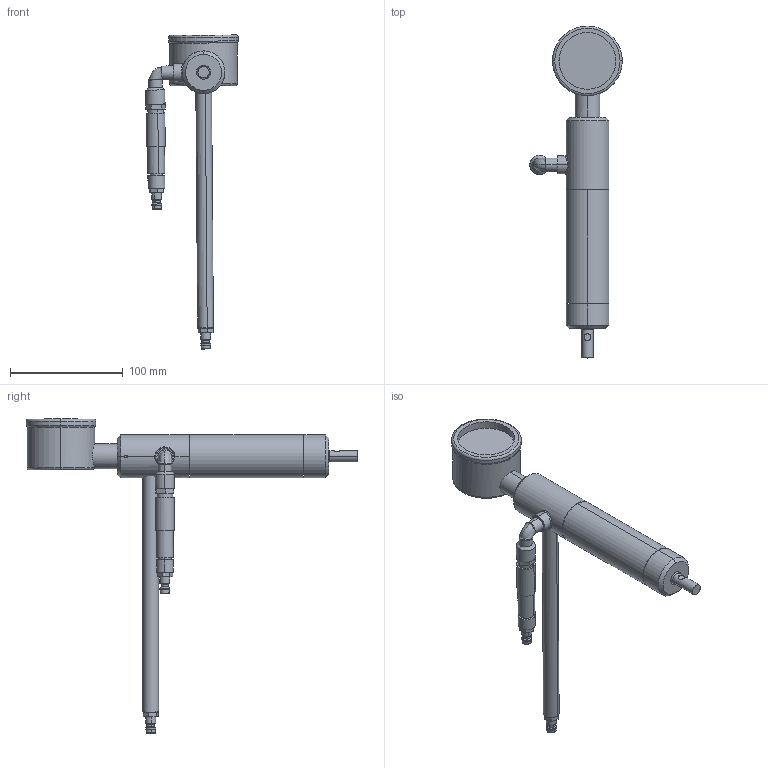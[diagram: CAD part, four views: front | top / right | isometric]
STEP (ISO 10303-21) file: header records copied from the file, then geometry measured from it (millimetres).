
FILE_DESCRIPTION (( 'STEP AP214' ), '1' );
FILE_NAME ('PLR28TGA.STEP', '2019-03-12T09:06:54', ( '' ), ( '' ), 'SwSTEP 2.0', 'SolidWorks 2018', '' );
FILE_SCHEMA (( 'AUTOMOTIVE_DESIGN' ));
Length unit declared in the file: millimetre
Products named in the file (14): Verschluss PLR 11; Halterohr GA; Rändelschraube GA; Schnellkupplung; Ventil; Rändelschraube; Winkel; Kopie von Tacho^PLR28TGA; Kopie von Distanzring PLR 11^PLR28TGA; Kopie von Deckel PLR 11^PLR28TGA; Kopie von Stator PLR 11^PLR28TGA; Kopie von Rotor PLR 11^PLR28TGA; Kopie von Motorblock PLR 11^PLR28TGA; PLR28TGA
Assembly tree (14 placements, depth 3):
  PLR28TGA
    Kopie von Motorblock PLR 11^PLR28TGA
    Kopie von Rotor PLR 11^PLR28TGA
    Kopie von Stator PLR 11^PLR28TGA
    Kopie von Deckel PLR 11^PLR28TGA
    Kopie von Distanzring PLR 11^PLR28TGA
    Kopie von Tacho^PLR28TGA
    Winkel
    Rändelschraube GA
      Rändelschraube
      Ventil
      Schnellkupplung
    Schnellkupplung
    Halterohr GA
    Verschluss PLR 11
Bounding box: 82.27 x 295 x 279.11 mm (x, y, z)
Volume: 294982.8 mm3; surface area: 116388.7 mm2
Topology: 13 solids, 13 shells, 290 faces, 601 edges, 378 vertices
Faces by surface type: cylinder 150, plane 94, cone 26, torus 17, bspline 3
Entity records: 8785 total; most frequent: CARTESIAN_POINT 2186, DIRECTION 1346, ORIENTED_EDGE 1058, AXIS2_PLACEMENT_3D 576, EDGE_CURVE 529, VERTEX_POINT 336, EDGE_LOOP 313, CIRCLE 302
